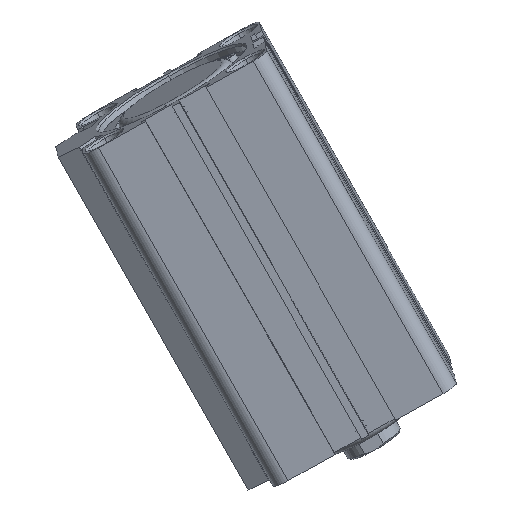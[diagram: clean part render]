
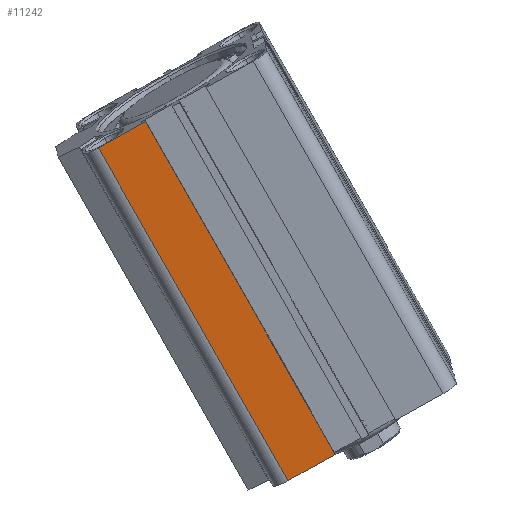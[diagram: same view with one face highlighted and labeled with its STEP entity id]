
A CAD part, left-side view. The second image highlights one B-rep face of the part: STEP entity #11242.
In plain terms, the highlighted planar face has unit normal (-0.987, -0.042, -0.158) as drawn and (-1, 0, 0) by its records, which use the part's own axes.
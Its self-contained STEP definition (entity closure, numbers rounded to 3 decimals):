
#1271 = VERTEX_POINT ( 'NONE', #13568 ) ;
#2604 = LINE ( 'NONE', #7993, #9130 ) ;
#3180 = CARTESIAN_POINT ( 'NONE',  ( -26., 8.6, 96. ) ) ;
#3697 = LINE ( 'NONE', #18301, #10295 ) ;
#5293 = ORIENTED_EDGE ( 'NONE', *, *, #11801, .T. ) ;
#6226 = DIRECTION ( 'NONE',  ( -1., 0., 0. ) ) ;
#6272 = EDGE_CURVE ( 'NONE', #17046, #1271, #11694, .T. ) ;
#7452 = DIRECTION ( 'NONE',  ( 0., 1., 0. ) ) ;
#7993 = CARTESIAN_POINT ( 'NONE',  ( -26., 0., 0. ) ) ;
#9125 = CARTESIAN_POINT ( 'NONE',  ( -26., 0., 96. ) ) ;
#9130 = VECTOR ( 'NONE', #7452, 1000. ) ;
#9695 = CARTESIAN_POINT ( 'NONE',  ( -26., 8.6, 96. ) ) ;
#10295 = VECTOR ( 'NONE', #11932, 1000. ) ;
#10564 = VECTOR ( 'NONE', #14072, 1000. ) ;
#10595 = EDGE_CURVE ( 'NONE', #1271, #13605, #2604, .T. ) ;
#10959 = FACE_OUTER_BOUND ( 'NONE', #19752, .T. ) ;
#11175 = LINE ( 'NONE', #15366, #10564 ) ;
#11242 = ADVANCED_FACE ( 'NONE', ( #10959 ), #19013, .T. ) ;
#11273 = DIRECTION ( 'NONE',  ( 0., 0., -1. ) ) ;
#11694 = LINE ( 'NONE', #9695, #11979 ) ;
#11726 = CARTESIAN_POINT ( 'NONE',  ( -26., 22., 96. ) ) ;
#11801 = EDGE_CURVE ( 'NONE', #17046, #15075, #11175, .T. ) ;
#11868 = ORIENTED_EDGE ( 'NONE', *, *, #6272, .F. ) ;
#11932 = DIRECTION ( 'NONE',  ( 0., 0., -1. ) ) ;
#11979 = VECTOR ( 'NONE', #11273, 1000. ) ;
#13568 = CARTESIAN_POINT ( 'NONE',  ( -26., 8.6, 0. ) ) ;
#13605 = VERTEX_POINT ( 'NONE', #15550 ) ;
#14072 = DIRECTION ( 'NONE',  ( 0., 1., 0. ) ) ;
#14177 = DIRECTION ( 'NONE',  ( 0., -1., 0. ) ) ;
#14179 = EDGE_CURVE ( 'NONE', #15075, #13605, #3697, .T. ) ;
#15075 = VERTEX_POINT ( 'NONE', #11726 ) ;
#15366 = CARTESIAN_POINT ( 'NONE',  ( -26., 0., 96. ) ) ;
#15550 = CARTESIAN_POINT ( 'NONE',  ( -26., 22., 0. ) ) ;
#15557 = ORIENTED_EDGE ( 'NONE', *, *, #10595, .F. ) ;
#17046 = VERTEX_POINT ( 'NONE', #3180 ) ;
#18301 = CARTESIAN_POINT ( 'NONE',  ( -26., 22., 96. ) ) ;
#19003 = ORIENTED_EDGE ( 'NONE', *, *, #14179, .T. ) ;
#19013 = PLANE ( 'NONE',  #19535 ) ;
#19535 = AXIS2_PLACEMENT_3D ( 'NONE', #9125, #6226, #14177 ) ;
#19752 = EDGE_LOOP ( 'NONE', ( #15557, #11868, #5293, #19003 ) ) ;
